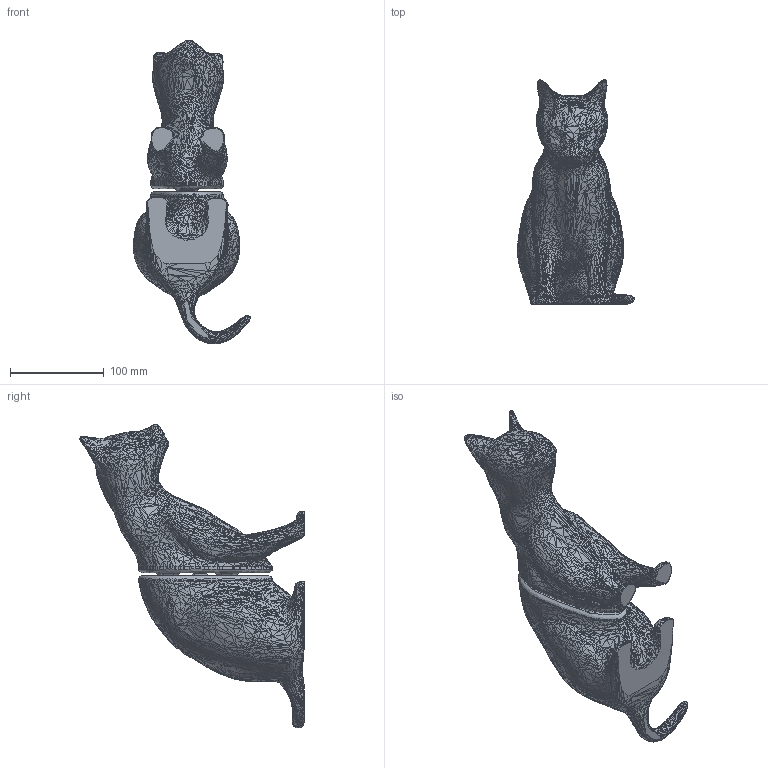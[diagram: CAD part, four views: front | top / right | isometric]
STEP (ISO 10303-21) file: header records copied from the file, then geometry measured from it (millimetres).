
FILE_DESCRIPTION(/* description */ (''),/* implementation_level */ '2;1');
FILE_NAME(/* name */ 'Assieme_gatto.stp',/* time_stamp */ '2024-11-02T20:13:11+01:00',/* author */ ('R5800u'),/* organization */ (''),/* preprocessor_version */ 'ST-DEVELOPER v20',/* originating_system */ 'Autodesk Inventor 2025',/* authorisation */ '');
FILE_SCHEMA (('AUTOMOTIVE_DESIGN { 1 0 10303 214 3 1 1 }'));
Products named in the file (3): Assieme_gatto; Sitting cat b; Sitting cat B008523 file stl free download 3D Model for CNC and 3d pr
inter
Assembly tree (2 placements, depth 2):
  Assieme_gatto
    Sitting cat b
    Sitting cat B008523 file stl free download 3D Model for CNC and 3d pr
inter
Bounding box: 124.35 x 239.2 x 324.02 mm (x, y, z)
Volume: 2025654.3 mm3; surface area: 147184.3 mm2
Topology: 2 solids, 2 shells, 13632 faces, 21198 edges, 7566 vertices
Faces by surface type: plane 13579, cylinder 23, bspline 19, torus 11
Entity records: 280276 total; most frequent: CARTESIAN_POINT 50888, DIRECTION 48058, ORIENTED_EDGE 42384, EDGE_CURVE 21192, LINE 20696, VECTOR 20696, AXIS2_PLACEMENT_3D 13681, EDGE_LOOP 13632
